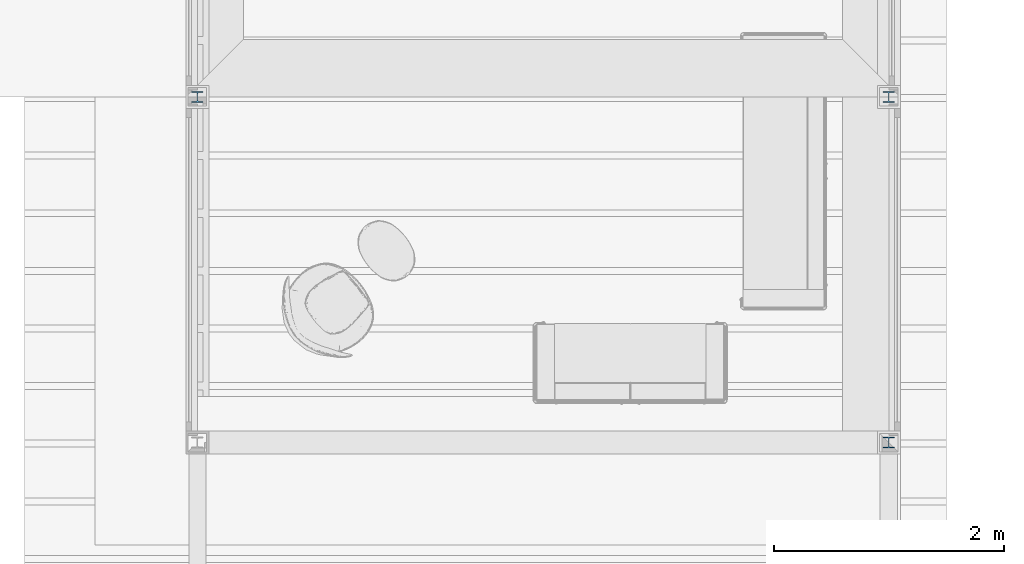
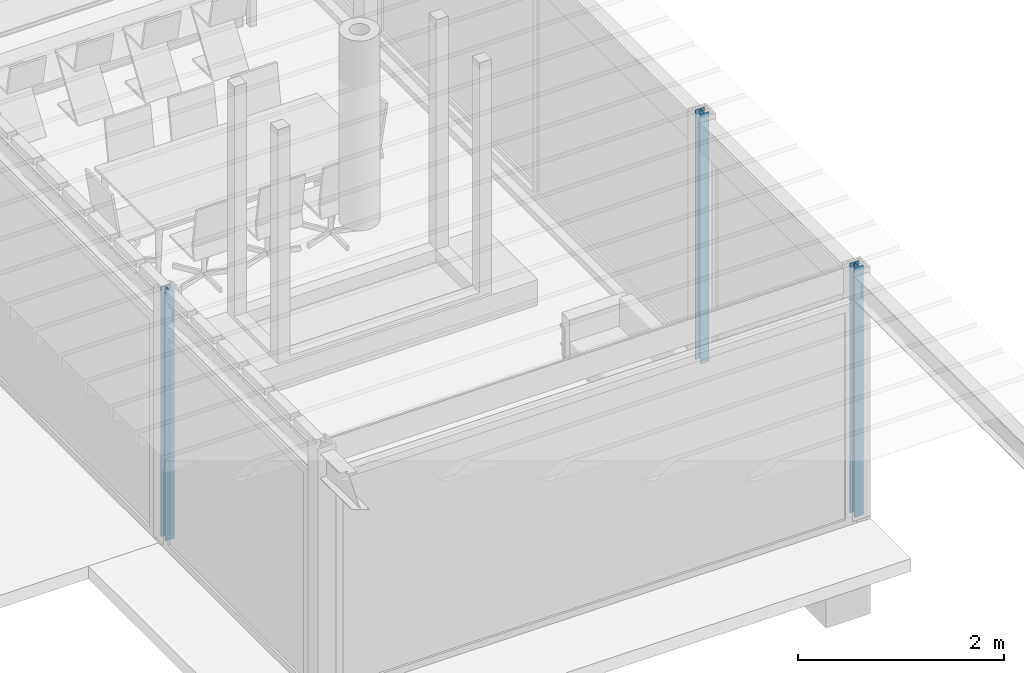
# One storey, part 3 of 28: 3 members.
"""IFC4X3_ADD2 building model written with IfcOpenShell, lengths in metres."""

from ifc_helpers import new_model, si_unit, direction, frame, origin_with_axes, origin_2d_with_axis, place, context, subcontext, project, spatial, i_section, extrude, material, element, save


model = new_model("IFC4X3_ADD2")

# Units and contexts
model_context = context("Model", 3, precision=1e-05, world=origin_with_axes(), true_north=direction((0.0, 1.0)))
body_context = subcontext(model_context, "Body", "Model", "MODEL_VIEW")
ifc_project = project(units=[si_unit("LENGTHUNIT", "METRE"), si_unit("AREAUNIT", "SQUARE_METRE"), si_unit("VOLUMEUNIT", "CUBIC_METRE"), si_unit("PLANEANGLEUNIT", "RADIAN"), si_unit("TIMEUNIT", "SECOND"), si_unit("MASSUNIT", "GRAM")], contexts=[model_context])

# Site, building, storey
site_placement = place(None, origin_with_axes())
site = spatial("IfcSite", under=ifc_project, at=site_placement, Name="Site", CompositionType="ELEMENT")
building_placement = place(site_placement, origin_with_axes())
building = spatial("IfcBuilding", under=site, at=building_placement, Name="Default Building")
storey_placement = place(building_placement, frame((0.0, 0.0, -0.08), z_axis=(0.0, 0.0, 1.0), x_axis=(1.0, 0.0, 0.0)))
storey = spatial("IfcBuildingStorey", under=building, at=storey_placement, Name="Gruendung", Elevation=-0.08)

# Members
ifc_material = material(Name="Default")
for number, where, z_axis, x_axis, name in (
    (1, (19.0, 3.0, 0.08), (0.0, 0.0, 1.0), (-1.0, 0.0, 0.0), "Wide Flange"),
    (2, (25.0, 3.0, 0.08), (0.0, 0.0, 1.0), (-1.0, 0.0, 0.0), "Wide Flange"),
    (3, (25.0, 0.0, 0.08), (0.0, 0.0, 1.0), (1.0, 0.0, 0.0), "Wide Flange"),
):
    element("IfcMember", number, at=place(storey_placement, frame(where, z_axis=z_axis, x_axis=x_axis)), inside=storey, material=ifc_material, Name=name, ObjectType="HEA 100", context=body_context, shape_type="SweptSolid", body=[
        extrude(i_section(OverallWidth=0.1, OverallDepth=0.096, WebThickness=0.005, FlangeThickness=0.008, FilletRadius=0.012, at=origin_2d_with_axis()), origin_with_axes(), (0.0, 0.0, 1.0), 2.96),
    ])

save(model, "model.ifc")
